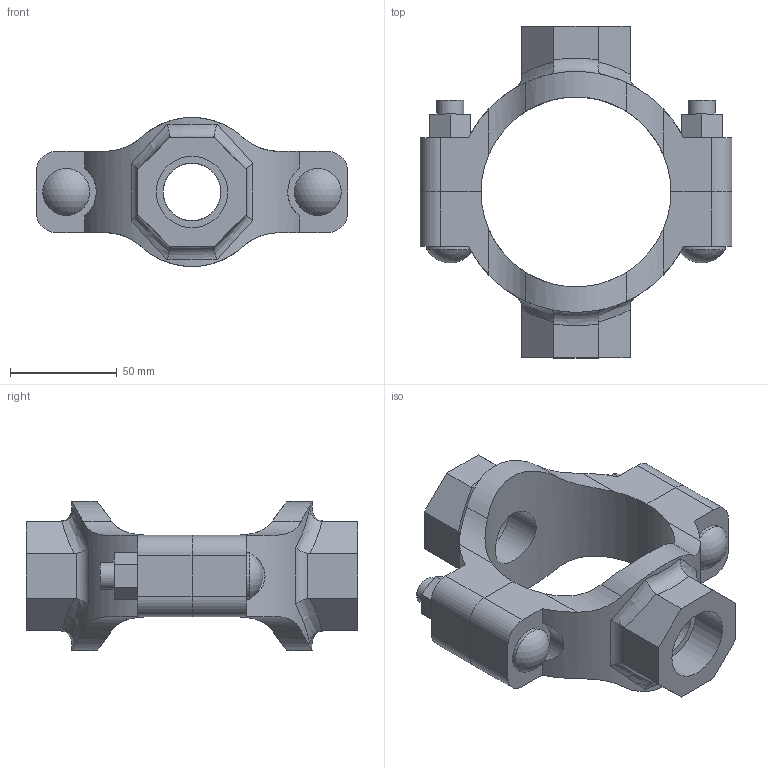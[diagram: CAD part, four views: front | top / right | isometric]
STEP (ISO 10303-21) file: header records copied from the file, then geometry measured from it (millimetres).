
FILE_DESCRIPTION(/* description */ ('VIC MECH-T BRANCH OUTLET CROSS STYLE 920N (THD)','CAx-IF Rec.Pracs.---Representation and Presentation of Product Manufacturing Information (PMI)---4.0---2014-10-13'),/* implementation_level */ '2;1');
FILE_NAME(/* name */ 'C:\Users\Vjadhav\AppData\Roaming\Autodesk\ApplicationPlugins\Back Up\Victaulic_IPS_Mechanical-Cross Outlet_Style 920N (FPT)\Victaulic_IPS_Mechanical-Cross Outlet_03.0x01.0x01.0 (80x25x25).stp',/* time_stamp */ '2020-08-06T18:57:28+05:00',/* author */ ('Vjadhav'),/* organization */ ('Victaulic'),/* preprocessor_version */ 'ST-DEVELOPER v17.2',/* originating_system */ 'Autodesk Inventor 2019',/* authorisation */ '');
FILE_SCHEMA (('AP242_MANAGED_MODEL_BASED_3D_ENGINEERING_MIM_LF { 1 0 10303 442 1 1 4 }'));
Length unit declared in the file: inch
Products named in the file (3): 920NT-03.0x01.0x01.0; 920NT-03.0x01.0; 920NT-03.0x01.0_1
Assembly tree (2 placements, depth 2):
  920NT-03.0x01.0x01.0
    920NT-03.0x01.0
    920NT-03.0x01.0_1
Bounding box: 146.05 x 155.45 x 69.84 mm (x, y, z)
Volume: 296863.6 mm3; surface area: 72529.2 mm2
Topology: 2 solids, 2 shells, 132 faces, 350 edges, 236 vertices
Faces by surface type: plane 68, cylinder 50, bspline 8, torus 4, sphere 2
Full cylindrical faces by diameter (mm): 12.7 x4, 21.982 x2, 26.987 x2, 33.401 x2
Entity records: 5102 total; most frequent: CARTESIAN_POINT 1589, ORIENTED_EDGE 700, DIRECTION 648, EDGE_CURVE 350, VERTEX_POINT 236, AXIS2_PLACEMENT_3D 231, LINE 186, VECTOR 186
